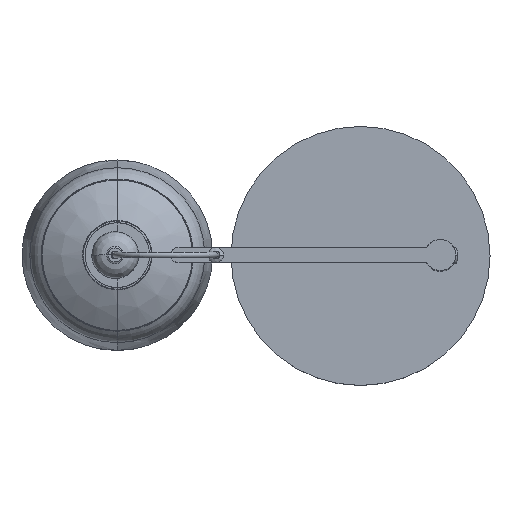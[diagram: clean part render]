
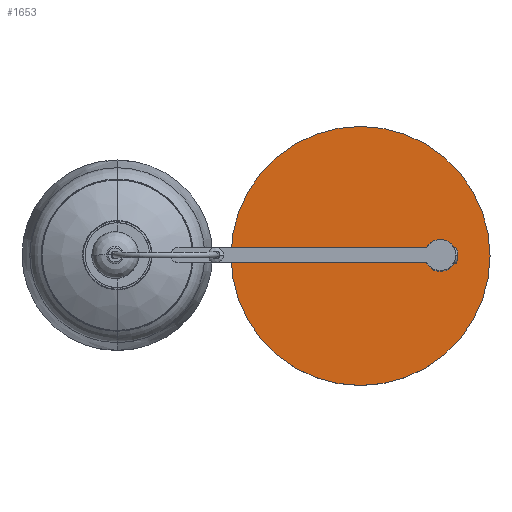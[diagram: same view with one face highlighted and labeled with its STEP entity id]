
A CAD part, top view. The second image highlights one B-rep face of the part: STEP entity #1653.
In plain terms, the highlighted planar face has unit normal (0, 0, 1).
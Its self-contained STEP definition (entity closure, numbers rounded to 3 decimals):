
#19=FACE_BOUND('',#365,.T.);
#41=PLANE('',#2177);
#223=FACE_OUTER_BOUND('',#364,.T.);
#364=EDGE_LOOP('',(#1294,#1295));
#365=EDGE_LOOP('',(#1296,#1297));
#594=VERTEX_POINT('',#5431);
#595=VERTEX_POINT('',#5432);
#604=VERTEX_POINT('',#5648);
#605=VERTEX_POINT('',#5649);
#823=EDGE_CURVE('',#594,#595,#1781,.T.);
#827=EDGE_CURVE('',#595,#594,#1783,.T.);
#839=EDGE_CURVE('',#604,#605,#1787,.T.);
#840=EDGE_CURVE('',#605,#604,#1788,.T.);
#1294=ORIENTED_EDGE('',*,*,#827,.T.);
#1295=ORIENTED_EDGE('',*,*,#823,.T.);
#1296=ORIENTED_EDGE('',*,*,#839,.F.);
#1297=ORIENTED_EDGE('',*,*,#840,.F.);
#1653=ADVANCED_FACE('',(#223,#19),#41,.T.);
#1781=CIRCLE('',#2167,125.);
#1783=CIRCLE('',#2170,125.);
#1787=CIRCLE('',#2178,15.);
#1788=CIRCLE('',#2179,15.);
#2167=AXIS2_PLACEMENT_3D('',#5433,#2535,#2536);
#2170=AXIS2_PLACEMENT_3D('',#5440,#2543,#2544);
#2177=AXIS2_PLACEMENT_3D('',#5647,#2559,#2560);
#2178=AXIS2_PLACEMENT_3D('',#5650,#2561,#2562);
#2179=AXIS2_PLACEMENT_3D('',#5651,#2563,#2564);
#2535=DIRECTION('center_axis',(0.,0.,1.));
#2536=DIRECTION('ref_axis',(1.,0.,0.));
#2543=DIRECTION('center_axis',(0.,0.,1.));
#2544=DIRECTION('ref_axis',(1.,0.,0.));
#2559=DIRECTION('center_axis',(0.,0.,1.));
#2560=DIRECTION('ref_axis',(0.,1.,0.));
#2561=DIRECTION('center_axis',(0.,0.,1.));
#2562=DIRECTION('ref_axis',(1.,0.,0.));
#2563=DIRECTION('center_axis',(0.,0.,1.));
#2564=DIRECTION('ref_axis',(1.,0.,0.));
#5431=CARTESIAN_POINT('',(125.,0.,21.));
#5432=CARTESIAN_POINT('',(-125.,0.,21.));
#5433=CARTESIAN_POINT('Origin',(0.,0.,21.));
#5440=CARTESIAN_POINT('Origin',(0.,0.,21.));
#5647=CARTESIAN_POINT('Origin',(125.,0.,21.));
#5648=CARTESIAN_POINT('',(62.,0.,21.));
#5649=CARTESIAN_POINT('',(92.,0.,21.));
#5650=CARTESIAN_POINT('Origin',(77.,0.,21.));
#5651=CARTESIAN_POINT('Origin',(77.,0.,21.));
